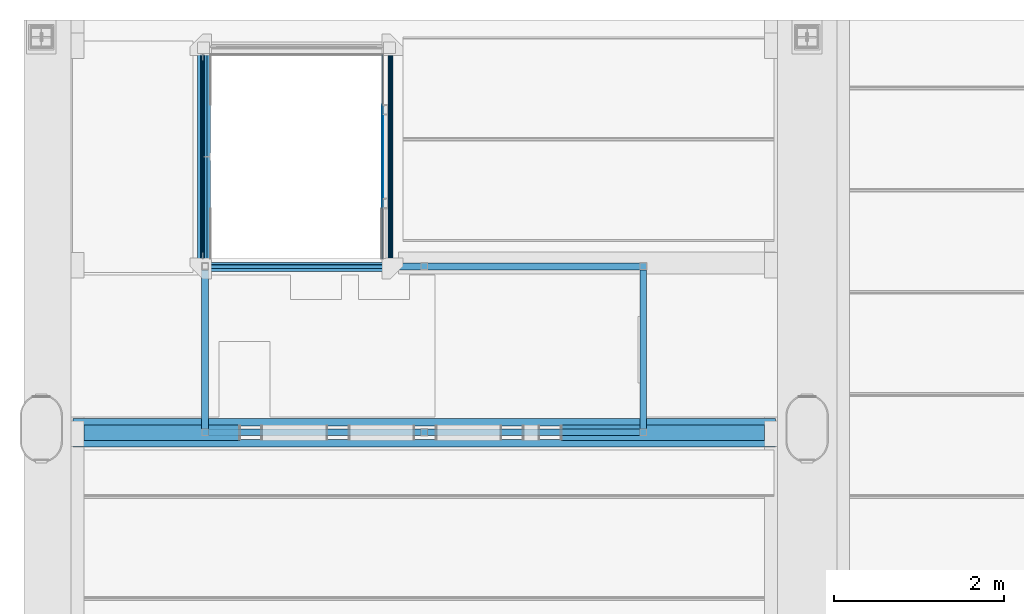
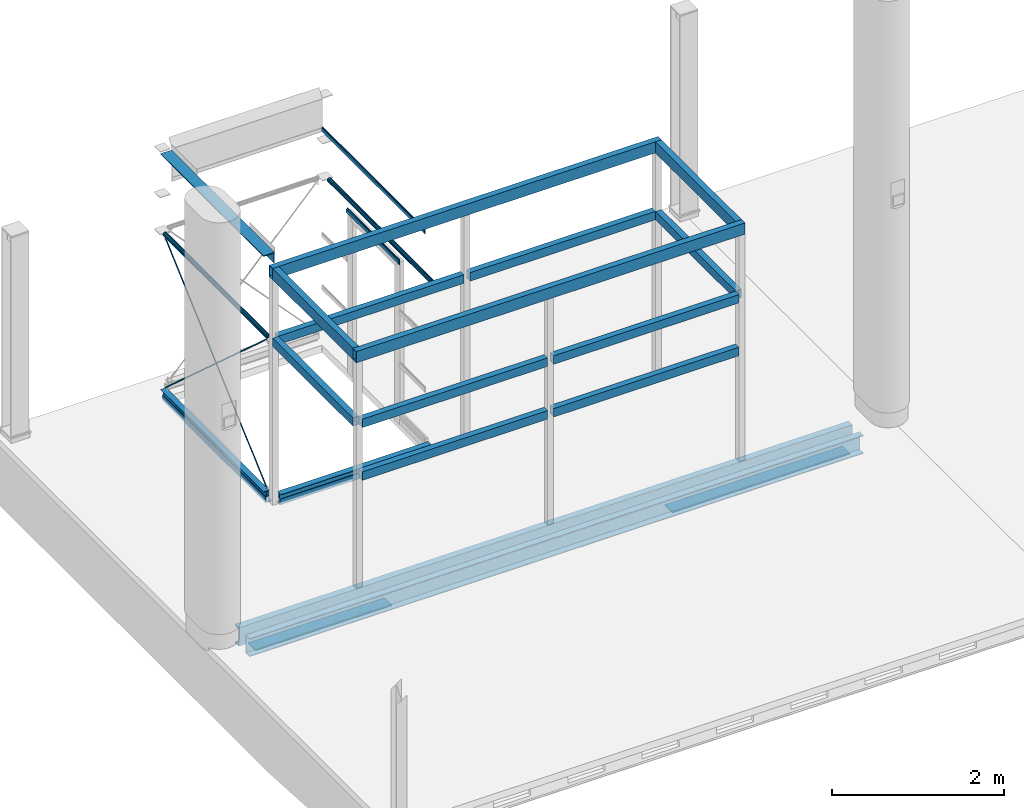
# One storey, part 7 of 15: 31 beams.
"""IFC2X3 building model written with IfcOpenShell, lengths in millimetres."""

from ifc_helpers import new_model, entity, si_unit, converted_unit, derived_unit, direction, frame, origin_with_axes, place, context, subcontext, project, spatial, faceted_brep, material, type_object, element, save


model = new_model("IFC2X3")

# Units and contexts
model_context = context("Model", 3, precision=0.01, world=frame((0.0, 4.29681676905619e-09, 0.0)), true_north=direction((4.01073788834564e-13, 1.0)))
plan_context = context("Plan", 3, precision=0.01, world=frame((0.0, 4.29681676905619e-09, 0.0)), true_north=direction((4.01073788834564e-13, 1.0)))
body_context = subcontext(model_context, "Body", "Model", "MODEL_VIEW")
ifc_project = project(units=[converted_unit("PLANEANGLEUNIT", "DEGREE", entity("IfcPositiveLengthMeasure", 0.0174532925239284), si_unit("PLANEANGLEUNIT", "RADIAN"), dimensions=[0, 0, 0, 0, 0, 0, 0]), si_unit("AREAUNIT", "SQUARE_METRE"), si_unit("LENGTHUNIT", "METRE", prefix="MILLI"), si_unit("MASSUNIT", "GRAM", prefix="KILO"), si_unit("POWERUNIT", "WATT"), si_unit("PRESSUREUNIT", "PASCAL", prefix="KILO"), si_unit("FORCEUNIT", "NEWTON", prefix="KILO"), si_unit("ELECTRICVOLTAGEUNIT", "VOLT"), si_unit("ELECTRICCURRENTUNIT", "AMPERE"), si_unit("THERMODYNAMICTEMPERATUREUNIT", "DEGREE_CELSIUS"), si_unit("TIMEUNIT", "SECOND"), si_unit("VOLUMEUNIT", "CUBIC_METRE"), derived_unit("LINEARVELOCITYUNIT", [(si_unit("LENGTHUNIT", "METRE"), 1), (si_unit("TIMEUNIT", "SECOND"), -1)]), derived_unit("VOLUMETRICFLOWRATEUNIT", [(si_unit("VOLUMEUNIT", "CUBIC_METRE"), 1), (si_unit("TIMEUNIT", "SECOND"), -1)]), derived_unit("THERMALTRANSMITTANCEUNIT", [(si_unit("POWERUNIT", "WATT"), 1), (si_unit("THERMODYNAMICTEMPERATUREUNIT", "KELVIN"), -1), (si_unit("AREAUNIT", "SQUARE_METRE"), -1)]), derived_unit("SOUNDPRESSUREUNIT", [(si_unit("PRESSUREUNIT", "PASCAL"), 1)])], contexts=[model_context, plan_context])

# Site, building, storey
site_placement = place(None, frame((0.0, -4.29681676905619e-09, 0.0), z_axis=(0.0, 0.0, 1.0), x_axis=(1.0, 0.0, 0.0)))
site = spatial("IfcSite", under=ifc_project, at=site_placement, Name="Gardermoen", CompositionType="ELEMENT")
building_placement = place(site_placement, frame((0.0, 4.29681676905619e-09, 0.0), z_axis=(0.0, 0.0, 1.0), x_axis=(1.0, 0.0, 0.0)))
building = spatial("IfcBuilding", under=site, at=building_placement, Name="TG", CompositionType="ELEMENT")
storey_placement = place(building_placement, origin_with_axes())
storey = spatial("IfcBuildingStorey", under=building, at=storey_placement, Name="F", CompositionType="ELEMENT", Elevation=0.0)

# Beams
ifc_material = material(Name="STEEL/S355")
beam_type_1 = type_object("IfcBeamType", Name="RØR60.3X5.0", PredefinedType="NOTDEFINED")
beam_1_placement = place(storey_placement, frame((326105.039287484, 464694.917046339, 212455.000718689), z_axis=(0.0, 0.0, 1.0), x_axis=(6.88099999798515e-05, 0.999999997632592, 0.0)))
element("IfcBeam", 1, at=beam_1_placement, inside=storey, type_object=beam_type_1, material=ifc_material, Name="STÅLBJELKE", ObjectType="RØR60.3X5.0", context=body_context, shape_type="Brep", body=[
    faceted_brep([(4.07453626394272e-10, -25.1499999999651, 0.0), (5.82076609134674e-10, -23.2355702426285, 9.62448832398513), (2399.9124806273, -23.2355702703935, 9.62448832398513), (2399.91248062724, -25.1500000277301, 0.0), (6.40284270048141e-10, -17.7837355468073, 17.7837355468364), (2399.91248062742, -17.783735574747, 17.7837355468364), (6.40284270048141e-10, -9.62448832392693, 23.2355702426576), (2399.91248062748, -9.62448835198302, 23.2355702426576), (5.23868948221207e-10, 5.82076609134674e-11, 25.1499999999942), (2399.91248062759, -2.81725078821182e-08, 25.1499999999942), (3.49245965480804e-10, 9.62448832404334, 23.2355702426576), (2399.91248062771, 9.624488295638, 23.2355702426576), (5.82076609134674e-11, 17.7837355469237, 17.7837355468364), (2399.91248062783, 17.7837355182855, 17.7837355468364), (-1.74622982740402e-10, 23.2355702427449, 9.62448832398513), (2399.91248062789, 23.2355702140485, 9.62448832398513), (-3.49245965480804e-10, 25.1500000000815, 0.0), (2399.91248062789, 25.1499999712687, 0.0), (-5.82076609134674e-10, 23.2355702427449, -9.62448832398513), (2399.91248062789, 23.2355702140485, -9.62448832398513), (-6.40284270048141e-10, 17.7837355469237, -17.7837355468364), (2399.91248062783, 17.7837355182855, -17.7837355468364), (-6.40284270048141e-10, 9.62448832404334, -23.2355702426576), (2399.91248062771, 9.624488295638, -23.2355702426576), (-5.23868948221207e-10, 5.82076609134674e-11, -25.1499999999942), (2399.91248062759, -2.81725078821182e-08, -25.1499999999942), (-3.49245965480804e-10, -9.62448832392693, -23.2355702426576), (2399.91248062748, -9.62448835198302, -23.2355702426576), (-5.82076609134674e-11, -17.7837355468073, -17.7837355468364), (2399.91248062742, -17.783735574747, -17.7837355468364), (1.74622982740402e-10, -23.2355702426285, -9.62448832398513), (2399.9124806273, -23.2355702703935, -9.62448832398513), (4.65661287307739e-10, -30.1499999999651, 0.0), (1.74622982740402e-10, -27.8549679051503, -11.5379054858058), (2399.9124806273, -27.8549679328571, -11.5379054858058), (2399.91248062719, -30.1500000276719, 0.0), (-1.16415321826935e-10, -21.3192694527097, -21.3192694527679), (2399.91248062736, -21.3192694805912, -21.3192694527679), (-4.07453626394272e-10, -11.5379054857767, -27.8549679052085), (2399.91248062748, -11.5379055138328, -27.8549679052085), (-6.40284270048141e-10, 5.82076609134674e-11, -30.1499999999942), (2399.91248062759, -2.81725078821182e-08, -30.1499999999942), (-7.56699591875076e-10, 11.5379054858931, -27.8549679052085), (2399.91248062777, 11.5379054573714, -27.8549679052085), (-8.14907252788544e-10, 21.3192694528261, -21.3192694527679), (2399.91248062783, 21.319269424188, -21.3192694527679), (-7.56699591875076e-10, 27.8549679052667, -11.5379054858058), (2399.91248062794, 27.8549678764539, -11.5379054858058), (-4.65661287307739e-10, 30.1500000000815, 0.0), (2399.91248062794, 30.1499999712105, 0.0), (-2.3283064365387e-10, 27.8549679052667, 11.5379054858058), (2399.91248062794, 27.8549678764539, 11.5379054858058), (5.82076609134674e-11, 21.3192694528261, 21.3192694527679), (2399.91248062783, 21.319269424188, 21.3192694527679), (4.07453626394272e-10, 11.5379054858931, 27.8549679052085), (2399.91248062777, 11.5379054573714, 27.8549679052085), (6.40284270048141e-10, 5.82076609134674e-11, 30.1499999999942), (2399.91248062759, -2.81725078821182e-08, 30.1499999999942), (7.56699591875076e-10, -11.5379054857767, 27.8549679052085), (2399.91248062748, -11.5379055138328, 27.8549679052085), (7.56699591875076e-10, -21.3192694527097, 21.3192694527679), (2399.91248062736, -21.3192694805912, 21.3192694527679), (6.98491930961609e-10, -27.8549679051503, 11.5379054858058), (2399.9124806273, -27.8549679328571, 11.5379054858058)], [[[0, 1, 2, 3]], [[1, 4, 5, 2]], [[4, 6, 7, 5]], [[6, 8, 9, 7]], [[8, 10, 11, 9]], [[10, 12, 13, 11]], [[12, 14, 15, 13]], [[14, 16, 17, 15]], [[16, 18, 19, 17]], [[18, 20, 21, 19]], [[20, 22, 23, 21]], [[22, 24, 25, 23]], [[24, 26, 27, 25]], [[26, 28, 29, 27]], [[28, 30, 31, 29]], [[30, 0, 3, 31]], [[32, 33, 34, 35]], [[33, 36, 37, 34]], [[36, 38, 39, 37]], [[38, 40, 41, 39]], [[40, 42, 43, 41]], [[42, 44, 45, 43]], [[44, 46, 47, 45]], [[46, 48, 49, 47]], [[48, 50, 51, 49]], [[50, 52, 53, 51]], [[52, 54, 55, 53]], [[54, 56, 57, 55]], [[56, 58, 59, 57]], [[58, 60, 61, 59]], [[60, 62, 63, 61]], [[62, 32, 35, 63]], [[37, 39, 41, 43, 45, 47, 49, 51, 53, 55, 57, 59, 61, 63, 35, 34], [5, 7, 9, 11, 13, 15, 17, 19, 21, 23, 25, 27, 29, 31, 3, 2]], [[62, 60, 58, 56, 54, 52, 50, 48, 46, 44, 42, 40, 38, 36, 33, 32], [30, 28, 26, 24, 22, 20, 18, 16, 14, 12, 10, 8, 6, 4, 1, 0]]]),
])
beam_2_placement = place(storey_placement, frame((323894.840244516, 464694.917046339, 212455.000241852), z_axis=(0.0, 0.0, 1.0), x_axis=(-6.88099999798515e-05, 0.999999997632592, 0.0)))
element("IfcBeam", 2, at=beam_2_placement, inside=storey, type_object=beam_type_1, material=ifc_material, Name="STÅLBJELKE", ObjectType="RØR60.3X5.0", context=body_context, shape_type="Brep", body=[
    faceted_brep([(4.07453626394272e-10, -25.1499999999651, 0.0), (5.82076609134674e-10, -23.2355702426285, 9.62448832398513), (2399.9124806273, -23.2355702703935, 9.62448832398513), (2399.91248062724, -25.1500000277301, 0.0), (6.40284270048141e-10, -17.7837355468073, 17.7837355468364), (2399.91248062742, -17.783735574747, 17.7837355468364), (6.40284270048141e-10, -9.62448832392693, 23.2355702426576), (2399.91248062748, -9.62448835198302, 23.2355702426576), (5.23868948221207e-10, 5.82076609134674e-11, 25.1499999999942), (2399.91248062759, -2.81725078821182e-08, 25.1499999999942), (3.49245965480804e-10, 9.62448832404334, 23.2355702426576), (2399.91248062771, 9.624488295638, 23.2355702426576), (5.82076609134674e-11, 17.7837355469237, 17.7837355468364), (2399.91248062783, 17.7837355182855, 17.7837355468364), (-1.74622982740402e-10, 23.2355702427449, 9.62448832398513), (2399.91248062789, 23.2355702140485, 9.62448832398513), (-3.49245965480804e-10, 25.1500000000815, 0.0), (2399.91248062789, 25.1499999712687, 0.0), (-5.82076609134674e-10, 23.2355702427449, -9.62448832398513), (2399.91248062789, 23.2355702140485, -9.62448832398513), (-6.40284270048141e-10, 17.7837355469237, -17.7837355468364), (2399.91248062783, 17.7837355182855, -17.7837355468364), (-6.40284270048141e-10, 9.62448832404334, -23.2355702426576), (2399.91248062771, 9.624488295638, -23.2355702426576), (-5.23868948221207e-10, 5.82076609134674e-11, -25.1499999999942), (2399.91248062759, -2.81725078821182e-08, -25.1499999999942), (-3.49245965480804e-10, -9.62448832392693, -23.2355702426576), (2399.91248062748, -9.62448835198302, -23.2355702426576), (-5.82076609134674e-11, -17.7837355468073, -17.7837355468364), (2399.91248062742, -17.783735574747, -17.7837355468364), (1.74622982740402e-10, -23.2355702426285, -9.62448832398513), (2399.9124806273, -23.2355702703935, -9.62448832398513), (4.65661287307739e-10, -30.1499999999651, 0.0), (1.74622982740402e-10, -27.8549679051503, -11.5379054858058), (2399.9124806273, -27.8549679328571, -11.5379054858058), (2399.91248062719, -30.1500000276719, 0.0), (-1.16415321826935e-10, -21.3192694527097, -21.3192694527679), (2399.91248062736, -21.3192694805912, -21.3192694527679), (-4.07453626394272e-10, -11.5379054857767, -27.8549679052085), (2399.91248062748, -11.5379055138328, -27.8549679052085), (-6.40284270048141e-10, 5.82076609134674e-11, -30.1499999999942), (2399.91248062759, -2.81725078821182e-08, -30.1499999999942), (-7.56699591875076e-10, 11.5379054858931, -27.8549679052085), (2399.91248062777, 11.5379054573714, -27.8549679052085), (-8.14907252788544e-10, 21.3192694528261, -21.3192694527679), (2399.91248062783, 21.319269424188, -21.3192694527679), (-7.56699591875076e-10, 27.8549679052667, -11.5379054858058), (2399.91248062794, 27.8549678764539, -11.5379054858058), (-4.65661287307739e-10, 30.1500000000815, 0.0), (2399.91248062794, 30.1499999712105, 0.0), (-2.3283064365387e-10, 27.8549679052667, 11.5379054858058), (2399.91248062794, 27.8549678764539, 11.5379054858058), (5.82076609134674e-11, 21.3192694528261, 21.3192694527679), (2399.91248062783, 21.319269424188, 21.3192694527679), (4.07453626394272e-10, 11.5379054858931, 27.8549679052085), (2399.91248062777, 11.5379054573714, 27.8549679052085), (6.40284270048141e-10, 5.82076609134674e-11, 30.1499999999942), (2399.91248062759, -2.81725078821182e-08, 30.1499999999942), (7.56699591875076e-10, -11.5379054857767, 27.8549679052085), (2399.91248062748, -11.5379055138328, 27.8549679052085), (7.56699591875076e-10, -21.3192694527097, 21.3192694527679), (2399.91248062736, -21.3192694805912, 21.3192694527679), (6.98491930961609e-10, -27.8549679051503, 11.5379054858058), (2399.9124806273, -27.8549679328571, 11.5379054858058)], [[[0, 1, 2, 3]], [[1, 4, 5, 2]], [[4, 6, 7, 5]], [[6, 8, 9, 7]], [[8, 10, 11, 9]], [[10, 12, 13, 11]], [[12, 14, 15, 13]], [[14, 16, 17, 15]], [[16, 18, 19, 17]], [[18, 20, 21, 19]], [[20, 22, 23, 21]], [[22, 24, 25, 23]], [[24, 26, 27, 25]], [[26, 28, 29, 27]], [[28, 30, 31, 29]], [[30, 0, 3, 31]], [[32, 33, 34, 35]], [[33, 36, 37, 34]], [[36, 38, 39, 37]], [[38, 40, 41, 39]], [[40, 42, 43, 41]], [[42, 44, 45, 43]], [[44, 46, 47, 45]], [[46, 48, 49, 47]], [[48, 50, 51, 49]], [[50, 52, 53, 51]], [[52, 54, 55, 53]], [[54, 56, 57, 55]], [[56, 58, 59, 57]], [[58, 60, 61, 59]], [[60, 62, 63, 61]], [[62, 32, 35, 63]], [[37, 39, 41, 43, 45, 47, 49, 51, 53, 55, 57, 59, 61, 63, 35, 34], [5, 7, 9, 11, 13, 15, 17, 19, 21, 23, 25, 27, 29, 31, 3, 2]], [[62, 60, 58, 56, 54, 52, 50, 48, 46, 44, 42, 40, 38, 36, 33, 32], [30, 28, 26, 24, 22, 20, 18, 16, 14, 12, 10, 8, 6, 4, 1, 0]]]),
])
beam_type_2 = type_object("IfcBeamType", Name="RHS80*40*4", PredefinedType="NOTDEFINED")
beam_3_placement = place(storey_placement, frame((323893.005239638, 464694.917046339, 210215.000257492), z_axis=(0.0, 0.0, 1.0), x_axis=(-6.88099999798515e-05, 0.999999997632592, 0.0)))
element("IfcBeam", 3, at=beam_3_placement, inside=storey, type_object=beam_type_2, material=ifc_material, Name="STÅLBJELKE", ObjectType="RHS80*40*4", context=body_context, shape_type="Brep", body=[
    faceted_brep([(0.0, 16.0, -36.0), (0.0, -16.0, -36.0), (2399.91248082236, -15.9999999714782, -36.0), (2399.91248082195, 16.0000000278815, -36.0), (0.0, -16.0, 36.0), (2399.91248082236, -15.9999999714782, 36.0), (0.0, 16.0, 36.0), (2399.91248082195, 16.0000000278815, 36.0), (0.0, 20.0, -40.0), (0.0, 20.0, 40.0), (2399.91248082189, 20.0000000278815, 40.0), (2399.91248082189, 20.0000000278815, -40.0), (0.0, -20.0, 40.0), (2399.91248082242, -19.99999997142, 40.0), (0.0, -20.0, -40.0), (2399.91248082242, -19.99999997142, -40.0)], [[[0, 1, 2, 3]], [[1, 4, 5, 2]], [[4, 6, 7, 5]], [[6, 0, 3, 7]], [[8, 9, 10, 11]], [[9, 12, 13, 10]], [[12, 14, 15, 13]], [[14, 8, 11, 15]], [[13, 15, 11, 10], [5, 7, 3, 2]], [[14, 12, 9, 8], [6, 4, 1, 0]]]),
])
beam_4_placement = place(storey_placement, frame((323987.857743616, 464599.995473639, 210215.000257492), z_axis=(0.0, 0.0, 1.0), x_axis=(0.999999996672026, -8.15839999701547e-05, 0.0)))
element("IfcBeam", 4, at=beam_4_placement, inside=storey, type_object=beam_type_2, material=ifc_material, Name="STÅLBJELKE", ObjectType="RHS80*40*4", context=body_context, shape_type="Brep", body=[
    faceted_brep([(0.0, 16.0, -36.0), (0.0, -16.0, -36.0), (2024.15939510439, -16.0, -36.0), (2024.15939510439, 16.0, -36.0), (0.0, -16.0, 36.0), (2024.15939510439, -16.0, 36.0), (0.0, 16.0, 36.0), (2024.15939510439, 16.0, 36.0), (0.0, 20.0, -40.0), (0.0, 20.0, 40.0), (2024.15939510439, 20.0, 40.0), (2024.15939510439, 20.0, -40.0), (0.0, -20.0, 40.0), (2024.15939510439, -20.0, 40.0), (0.0, -20.0, -40.0), (2024.15939510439, -20.0, -40.0)], [[[0, 1, 2, 3]], [[1, 4, 5, 2]], [[4, 6, 7, 5]], [[6, 0, 3, 7]], [[8, 9, 10, 11]], [[9, 12, 13, 10]], [[12, 14, 15, 13]], [[14, 8, 11, 15]], [[13, 15, 11, 10], [5, 7, 3, 2]], [[14, 12, 9, 8], [6, 4, 1, 0]]]),
])
beam_type_3 = type_object("IfcBeamType", Name="L80*8", PredefinedType="NOTDEFINED")
beam_5_placement = place(storey_placement, frame((323905.505427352, 464694.917046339, 210135.000095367), z_axis=(0.0, 0.0, 1.0), x_axis=(-6.88099999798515e-05, 0.999999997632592, 0.0)))
element("IfcBeam", 5, at=beam_5_placement, inside=storey, type_object=beam_type_3, material=ifc_material, Name="STÅLBJELKE", ObjectType="L80*8", context=body_context, shape_type="Brep", body=[
    faceted_brep([(0.0, 40.0, -40.0), (4.98403096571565e-10, 40.0000000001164, 40.0), (2399.91248078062, 40.0000000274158, 40.0), (2399.91248078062, 40.0000000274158, -40.0), (0.0, 32.0, 40.0), (2399.91248078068, 32.0000000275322, 40.0), (0.0, 32.0, -32.0), (2399.91248078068, 32.0000000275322, -32.0), (0.0, -40.0, -32.0), (2399.91248078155, -39.9999999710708, -32.0), (0.0, -40.0, -40.0), (2399.91248078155, -39.9999999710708, -40.0)], [[[0, 1, 2, 3]], [[1, 4, 5, 2]], [[4, 6, 7, 5]], [[6, 8, 9, 7]], [[8, 10, 11, 9]], [[10, 0, 3, 11]], [[5, 7, 9, 11, 3, 2]], [[10, 8, 6, 4, 1, 0]]]),
])
beam_6_placement = place(storey_placement, frame((326012.017138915, 464612.330522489, 210135.000095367), z_axis=(0.0, 0.0, 1.0), x_axis=(-0.999999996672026, 8.1583999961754e-05, 0.0)))
element("IfcBeam", 6, at=beam_6_placement, inside=storey, type_object=beam_type_3, material=ifc_material, Name="STÅLBJELKE", ObjectType="L80*8", context=body_context, shape_type="Brep", body=[
    faceted_brep([(0.0, 40.0, -40.0), (4.98403096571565e-10, 40.0000000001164, 40.0), (2024.15940205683, 39.9999999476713, 40.0), (2024.15940205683, 39.9999999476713, -40.0), (0.0, 32.0, 40.0), (2024.1594020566, 31.9999999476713, 40.0), (0.0, 32.0, -32.0), (2024.1594020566, 31.9999999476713, -32.0), (0.0, -40.0, -32.0), (2024.15940205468, -40.0000000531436, -32.0), (0.0, -40.0, -40.0), (2024.15940205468, -40.0000000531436, -40.0)], [[[0, 1, 2, 3]], [[1, 4, 5, 2]], [[4, 6, 7, 5]], [[6, 8, 9, 7]], [[8, 10, 11, 9]], [[10, 0, 3, 11]], [[5, 7, 9, 11, 3, 2]], [[10, 8, 6, 4, 1, 0]]]),
])
beam_type_4 = type_object("IfcBeamType", Name="D12", PredefinedType="NOTDEFINED")
for number, where, z_axis, x_axis in (
    (7, (323894.841298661, 467074.619419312, 210281.628205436), (4.73909999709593e-05, 0.66861255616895, 0.743610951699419), (-5.27069999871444e-05, -0.743610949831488, 0.668612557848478)),
    (8, (323894.841298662, 464715.044675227, 210281.628205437), (4.73909999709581e-05, -0.668612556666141, 0.743610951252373), (-5.27070000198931e-05, 0.743610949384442, 0.668612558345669)),
):
    element("IfcBeam", number, at=place(storey_placement, frame(where, z_axis=z_axis, x_axis=x_axis)), inside=storey, type_object=beam_type_4, material=ifc_material, Name="STÅLBJELKE", ObjectType="D12", context=body_context, shape_type="Brep", body=[
        faceted_brep([(0.0, -6.0, 0.0), (5.82076609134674e-11, -4.24264068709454, -4.24264068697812), (3173.13071494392, -4.24264061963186, -4.24264071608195), (3173.13071494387, -5.99999993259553, -2.89292074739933e-08), (8.73114913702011e-11, 0.0, -5.99999999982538), (3173.13071494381, 6.74626789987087e-08, -6.00000002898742), (5.82076609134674e-11, 4.24264068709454, -4.24264068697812), (3173.13071494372, 4.24264075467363, -4.24264071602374), (0.0, 6.0, 0.0), (3173.13071494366, 6.00000006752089, -2.88709998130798e-08), (-5.82076609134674e-11, 4.24264068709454, 4.24264068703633), (3173.13071494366, 4.24264075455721, 4.24264065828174), (-5.82076609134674e-11, 0.0, 5.99999999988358), (3173.13071494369, 6.74044713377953e-08, 5.99999997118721), (-5.82076609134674e-11, -4.24264068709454, 4.24264068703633), (3173.13071494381, -4.24264061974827, 4.24264065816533)], [[[0, 1, 2, 3]], [[1, 4, 5, 2]], [[4, 6, 7, 5]], [[6, 8, 9, 7]], [[8, 10, 11, 9]], [[10, 12, 13, 11]], [[12, 14, 15, 13]], [[14, 0, 3, 15]], [[5, 7, 9, 11, 13, 15, 3, 2]], [[14, 12, 10, 8, 6, 4, 1, 0]]]),
    ])
beam_type_5 = type_object("IfcBeamType", Name="50*12", PredefinedType="NOTDEFINED")
beam_7_placement = place(storey_placement, frame((326006.039287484, 464694.830478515, 213204.823050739), z_axis=(0.0, 0.0, 1.0), x_axis=(0.0, 1.0, 0.0)))
element("IfcBeam", 9, at=beam_7_placement, inside=storey, type_object=beam_type_5, material=ifc_material, Name="STÅLBJELKE", ObjectType="50*12", context=body_context, shape_type="Brep", body=[
    faceted_brep([(0.0, 6.0, -25.0), (0.0, 6.0, 25.0), (2399.99904296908, 6.0, 25.0), (2399.99904296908, 6.0, -25.0), (0.0, -6.0, 25.0), (2399.99904296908, -6.0, 25.0), (0.0, -6.0, -25.0), (2399.99904296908, -6.0, -25.0)], [[[0, 1, 2, 3]], [[1, 4, 5, 2]], [[4, 6, 7, 5]], [[6, 0, 3, 7]], [[5, 7, 3, 2]], [[6, 4, 1, 0]]]),
])
beam_8_placement = place(storey_placement, frame((326001.039287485, 465284.64471299, 212410.001277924), z_axis=(0.0, 0.0, 1.0), x_axis=(0.0, 1.0, 0.0)))
element("IfcBeam", 10, at=beam_8_placement, inside=storey, type_object=beam_type_5, material=ifc_material, Name="STÅLBJELKE", ObjectType="50*12", context=body_context, shape_type="Brep", body=[
    faceted_brep([(0.0, 6.0, -25.0), (0.0, 6.0, 25.0), (1220.00026702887, 5.99999998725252, 25.0), (1220.00026702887, 5.99999998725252, -25.0), (0.0, -6.0, 25.0), (1220.00026702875, -6.00000001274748, 25.0), (0.0, -6.0, -25.0), (1220.00026702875, -6.00000001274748, -25.0)], [[[0, 1, 2, 3]], [[1, 4, 5, 2]], [[4, 6, 7, 5]], [[6, 0, 3, 7]], [[5, 7, 3, 2]], [[6, 4, 1, 0]]]),
])
beam_type_6 = type_object("IfcBeamType", Name="80*5", PredefinedType="NOTDEFINED")
beam_9_placement = place(storey_placement, frame((326014.539287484, 464694.830478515, 213204.822917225), z_axis=(0.0, 0.0, 1.0), x_axis=(0.0, 1.0, 0.0)))
element("IfcBeam", 11, at=beam_9_placement, inside=storey, type_object=beam_type_6, material=ifc_material, Name="STÅLBJELKE", ObjectType="80*5", context=body_context, shape_type="Brep", body=[
    faceted_brep([(0.0, 2.5, -40.0), (0.0, 2.5, 40.0), (2399.99904296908, 2.5, 40.0), (2399.99904296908, 2.5, -40.0), (0.0, -2.5, 40.0), (2399.99904296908, -2.5, 40.0), (0.0, -2.5, -40.0), (2399.99904296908, -2.5, -40.0)], [[[0, 1, 2, 3]], [[1, 4, 5, 2]], [[4, 6, 7, 5]], [[6, 0, 3, 7]], [[5, 7, 3, 2]], [[6, 4, 1, 0]]]),
])
beam_10_placement = place(storey_placement, frame((326009.539287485, 465284.64471299, 212410.001144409), z_axis=(0.0, 0.0, 1.0), x_axis=(0.0, 1.0, 0.0)))
element("IfcBeam", 12, at=beam_10_placement, inside=storey, type_object=beam_type_6, material=ifc_material, Name="STÅLBJELKE", ObjectType="80*5", context=body_context, shape_type="Brep", body=[
    faceted_brep([(0.0, 2.5, -40.0), (0.0, 2.5, 40.0), (1220.00026702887, 2.49999998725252, 40.0), (1220.00026702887, 2.49999998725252, -40.0), (0.0, -2.5, 40.0), (1220.00026702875, -2.50000001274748, 40.0), (0.0, -2.5, -40.0), (1220.00026702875, -2.50000001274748, -40.0)], [[[0, 1, 2, 3]], [[1, 4, 5, 2]], [[4, 6, 7, 5]], [[6, 0, 3, 7]], [[5, 7, 3, 2]], [[6, 4, 1, 0]]]),
])
beam_type_7 = type_object("IfcBeamType", Name="L150*12", PredefinedType="NOTDEFINED")
beam_11_placement = place(storey_placement, frame((323912.862393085, 467094.829521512, 213542.000007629), z_axis=(-1.0, 0.0, 0.0), x_axis=(0.0, -1.0, 0.0)))
element("IfcBeam", 13, at=beam_11_placement, inside=storey, type_object=beam_type_7, material=ifc_material, Name="STÅLBJELKE", ObjectType="L150*12", context=body_context, shape_type="Brep", body=[
    faceted_brep([(0.0, 75.0, -75.0), (0.0, 75.0, 75.0), (2399.84058683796, 75.0, 75.0), (2399.84058683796, 75.0, -75.0), (0.0, 63.0, 75.0), (2399.84058683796, 63.0, 75.0), (0.0, 63.0, -63.0), (2399.84058683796, 63.0, -63.0), (0.0, -75.0, -63.0), (2399.84058683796, -75.0, -63.0), (0.0, -75.0, -75.0), (2399.84058683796, -75.0, -75.0)], [[[0, 1, 2, 3]], [[1, 4, 5, 2]], [[4, 6, 7, 5]], [[6, 8, 9, 7]], [[8, 10, 11, 9]], [[10, 0, 3, 11]], [[5, 7, 9, 11, 3, 2]], [[10, 8, 6, 4, 1, 0]]]),
])
beam_type_8 = type_object("IfcBeamType", Name="5*80", PredefinedType="NOTDEFINED")
beam_12_placement = place(storey_placement, frame((323878.005383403, 464694.917046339, 210257.500133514), z_axis=(0.0, 0.0, 1.0), x_axis=(-6.88099999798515e-05, 0.999999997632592, 0.0)))
element("IfcBeam", 14, at=beam_12_placement, inside=storey, type_object=beam_type_8, material=ifc_material, Name="STÅLBJELKE", ObjectType="5*80", context=body_context, shape_type="Brep", body=[
    faceted_brep([(-4.65661287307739e-10, 39.9999999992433, -2.5), (-4.65661287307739e-10, 39.9999999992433, 2.5), (2399.91248082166, 40.000000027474, 2.5), (2399.91248082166, 40.000000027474, -2.5), (4.07453626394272e-10, -39.9999999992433, 2.5), (2399.91248082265, -39.9999999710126, 2.5), (4.07453626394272e-10, -39.9999999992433, -2.5), (2399.91248082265, -39.9999999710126, -2.5)], [[[0, 1, 2, 3]], [[1, 4, 5, 2]], [[4, 6, 7, 5]], [[6, 0, 3, 7]], [[5, 7, 3, 2]], [[6, 4, 1, 0]]]),
])
beam_13_placement = place(storey_placement, frame((323987.857743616, 464584.995617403, 210257.500133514), z_axis=(0.0, 0.0, 1.0), x_axis=(0.999999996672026, -8.15839999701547e-05, 0.0)))
element("IfcBeam", 15, at=beam_13_placement, inside=storey, type_object=beam_type_8, material=ifc_material, Name="STÅLBJELKE", ObjectType="5*80", context=body_context, shape_type="Brep", body=[
    faceted_brep([(-4.65661287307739e-10, 39.9999999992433, -2.5), (-4.65661287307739e-10, 39.9999999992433, 2.5), (2024.15940205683, 39.9999999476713, 2.5), (2024.15940205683, 39.9999999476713, -2.5), (4.07453626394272e-10, -39.9999999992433, 2.5), (2024.15940205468, -40.0000000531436, 2.5), (4.07453626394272e-10, -39.9999999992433, -2.5), (2024.15940205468, -40.0000000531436, -2.5)], [[[0, 1, 2, 3]], [[1, 4, 5, 2]], [[4, 6, 7, 5]], [[6, 0, 3, 7]], [[5, 7, 3, 2]], [[6, 4, 1, 0]]]),
])
beam_type_9 = type_object("IfcBeamType", Name="RHS120*80*5", PredefinedType="NOTDEFINED")
for number, where, z_axis, x_axis in (
    (16, (326540.0, 462655.0, 212450.0), (0.0, 0.0, 1.0), (1.0, 0.0, 0.0)),
    (17, (326540.0, 462655.0, 211700.0), (0.0, 0.0, 1.0), (1.0, 0.0, 0.0)),
    (18, (326540.0, 464605.0, 212450.0), (0.0, 0.0, 1.0), (1.0, 0.0, 0.0)),
    (19, (323965.0, 462655.0, 212450.0), (0.0, 0.0, 1.0), (1.0, 0.0, 0.0)),
):
    element("IfcBeam", number, at=place(storey_placement, frame(where, z_axis=z_axis, x_axis=x_axis)), inside=storey, type_object=beam_type_9, material=ifc_material, Name="STÅLBJELKE", ObjectType="RHS120*80*5", context=body_context, shape_type="Brep", body=[
        faceted_brep([(0.0, 35.0, -55.0), (0.0, -35.0, -55.0), (2495.0, -35.0, -55.0), (2495.0, 35.0, -55.0), (0.0, -35.0, 55.0), (2495.0, -35.0, 55.0), (0.0, 35.0, 55.0), (2495.0, 35.0, 55.0), (0.0, 40.0, -60.0), (0.0, 40.0, 60.0), (2495.0, 40.0, 60.0), (2495.0, 40.0, -60.0), (0.0, -40.0, 60.0), (2495.0, -40.0, 60.0), (0.0, -40.0, -60.0), (2495.0, -40.0, -60.0)], [[[0, 1, 2, 3]], [[1, 4, 5, 2]], [[4, 6, 7, 5]], [[6, 0, 3, 7]], [[8, 9, 10, 11]], [[9, 12, 13, 10]], [[12, 14, 15, 13]], [[14, 8, 11, 15]], [[13, 15, 11, 10], [5, 7, 3, 2]], [[14, 12, 9, 8], [6, 4, 1, 0]]]),
    ])
for number, where, z_axis, x_axis in (
    (20, (329075.0, 464565.0, 212450.0), (0.0, 0.0, 1.0), (0.0, -1.0, 0.0)),
    (21, (323925.0, 464565.0, 212450.0), (0.0, 0.0, 1.0), (0.0, -1.0, 0.0)),
):
    element("IfcBeam", number, at=place(storey_placement, frame(where, z_axis=z_axis, x_axis=x_axis)), inside=storey, type_object=beam_type_9, material=ifc_material, Name="STÅLBJELKE", ObjectType="RHS120*80*5", context=body_context, shape_type="Brep", body=[
        faceted_brep([(0.0, 35.0, -55.0), (0.0, -35.0, -55.0), (1870.0, -35.0, -55.0), (1870.0, 35.0, -55.0), (0.0, -35.0, 55.0), (1870.0, -35.0, 55.0), (0.0, 35.0, 55.0), (1870.0, 35.0, 55.0), (0.0, 40.0, -60.0), (0.0, 40.0, 60.0), (1870.0, 40.0, 60.0), (1870.0, 40.0, -60.0), (0.0, -40.0, 60.0), (1870.0, -40.0, 60.0), (0.0, -40.0, -60.0), (1870.0, -40.0, -60.0)], [[[0, 1, 2, 3]], [[1, 4, 5, 2]], [[4, 6, 7, 5]], [[6, 0, 3, 7]], [[8, 9, 10, 11]], [[9, 12, 13, 10]], [[12, 14, 15, 13]], [[14, 8, 11, 15]], [[13, 15, 11, 10], [5, 7, 3, 2]], [[14, 12, 9, 8], [6, 4, 1, 0]]]),
    ])
for number, where, z_axis, x_axis in (
    (22, (323965.0, 464605.0, 212450.0), (0.0, 0.0, 1.0), (1.0, 0.0, 0.0)),
    (23, (323965.0, 462655.0, 211700.0), (0.0, 0.0, 1.0), (1.0, 0.0, 0.0)),
):
    element("IfcBeam", number, at=place(storey_placement, frame(where, z_axis=z_axis, x_axis=x_axis)), inside=storey, type_object=beam_type_9, material=ifc_material, Name="STÅLBJELKE", ObjectType="RHS120*80*5", context=body_context, shape_type="Brep", body=[
        faceted_brep([(0.0, 35.0, -55.0), (0.0, -35.0, -55.0), (2495.0, -35.0, -55.0), (2495.0, 35.0, -55.0), (0.0, -35.0, 55.0), (2495.0, -35.0, 55.0), (0.0, 35.0, 55.0), (2495.0, 35.0, 55.0), (0.0, 40.0, -60.0), (0.0, 40.0, 60.0), (2495.0, 40.0, 60.0), (2495.0, 40.0, -60.0), (0.0, -40.0, 60.0), (2495.0, -40.0, 60.0), (0.0, -40.0, -60.0), (2495.0, -40.0, -60.0)], [[[0, 1, 2, 3]], [[1, 4, 5, 2]], [[4, 6, 7, 5]], [[6, 0, 3, 7]], [[8, 9, 10, 11]], [[9, 12, 13, 10]], [[12, 14, 15, 13]], [[14, 8, 11, 15]], [[13, 15, 11, 10], [5, 7, 3, 2]], [[14, 12, 9, 8], [6, 4, 1, 0]]]),
    ])
beam_type_10 = type_object("IfcBeamType", Name="RHS160*80*6.3", PredefinedType="NOTDEFINED")
beam_14_placement = place(storey_placement, frame((323885.0, 462655.0, 213420.0), z_axis=(0.0, 0.0, 1.0), x_axis=(1.0, 0.0, 0.0)))
element("IfcBeam", 24, at=beam_14_placement, inside=storey, type_object=beam_type_10, material=ifc_material, Name="STÅLBJELKE", ObjectType="RHS160*80*6.3", context=body_context, shape_type="Brep", body=[
    faceted_brep([(0.0, 33.6999998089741, -73.6999998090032), (0.0, -33.6999998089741, -73.6999998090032), (5230.0, -33.6999998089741, -73.6999998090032), (5230.0, 33.6999998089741, -73.6999998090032), (0.0, -33.6999998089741, 73.6999998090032), (5230.0, -33.6999998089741, 73.6999998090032), (0.0, 33.6999998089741, 73.6999998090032), (5230.0, 33.6999998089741, 73.6999998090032), (0.0, 40.0, -80.0), (0.0, 40.0, 80.0), (5230.0, 40.0, 80.0), (5230.0, 40.0, -80.0), (0.0, -40.0, 80.0), (5230.0, -40.0, 80.0), (0.0, -40.0, -80.0), (5230.0, -40.0, -80.0)], [[[0, 1, 2, 3]], [[1, 4, 5, 2]], [[4, 6, 7, 5]], [[6, 0, 3, 7]], [[8, 9, 10, 11]], [[9, 12, 13, 10]], [[12, 14, 15, 13]], [[14, 8, 11, 15]], [[13, 15, 11, 10], [5, 7, 3, 2]], [[14, 12, 9, 8], [6, 4, 1, 0]]]),
])
for number, where, z_axis, x_axis in (
    (25, (329075.0, 464565.0, 213420.0), (0.0, 0.0, 1.0), (0.0, -1.0, 0.0)),
    (26, (323925.0, 464565.0, 213420.0), (0.0, 0.0, 1.0), (0.0, -1.0, 0.0)),
):
    element("IfcBeam", number, at=place(storey_placement, frame(where, z_axis=z_axis, x_axis=x_axis)), inside=storey, type_object=beam_type_10, material=ifc_material, Name="STÅLBJELKE", ObjectType="RHS160*80*6.3", context=body_context, shape_type="Brep", body=[
        faceted_brep([(0.0, 33.6999998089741, -73.6999998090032), (0.0, -33.6999998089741, -73.6999998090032), (1870.0, -33.6999998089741, -73.6999998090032), (1870.0, 33.6999998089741, -73.6999998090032), (0.0, -33.6999998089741, 73.6999998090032), (1870.0, -33.6999998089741, 73.6999998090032), (0.0, 33.6999998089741, 73.6999998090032), (1870.0, 33.6999998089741, 73.6999998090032), (0.0, 40.0, -80.0), (0.0, 40.0, 80.0), (1870.0, 40.0, 80.0), (1870.0, 40.0, -80.0), (0.0, -40.0, 80.0), (1870.0, -40.0, 80.0), (0.0, -40.0, -80.0), (1870.0, -40.0, -80.0)], [[[0, 1, 2, 3]], [[1, 4, 5, 2]], [[4, 6, 7, 5]], [[6, 0, 3, 7]], [[8, 9, 10, 11]], [[9, 12, 13, 10]], [[12, 14, 15, 13]], [[14, 8, 11, 15]], [[13, 15, 11, 10], [5, 7, 3, 2]], [[14, 12, 9, 8], [6, 4, 1, 0]]]),
    ])
beam_15_placement = place(storey_placement, frame((323885.0, 464605.0, 213420.0), z_axis=(0.0, 0.0, 1.0), x_axis=(1.0, 0.0, 0.0)))
element("IfcBeam", 27, at=beam_15_placement, inside=storey, type_object=beam_type_10, material=ifc_material, Name="STÅLBJELKE", ObjectType="RHS160*80*6.3", context=body_context, shape_type="Brep", body=[
    faceted_brep([(0.0, 33.6999998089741, -73.6999998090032), (0.0, -33.6999998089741, -73.6999998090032), (5230.0, -33.6999998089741, -73.6999998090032), (5230.0, 33.6999998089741, -73.6999998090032), (0.0, -33.6999998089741, 73.6999998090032), (5230.0, -33.6999998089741, 73.6999998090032), (0.0, 33.6999998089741, 73.6999998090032), (5230.0, 33.6999998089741, 73.6999998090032), (0.0, 40.0, -80.0), (0.0, 40.0, 80.0), (5230.0, 40.0, 80.0), (5230.0, 40.0, -80.0), (0.0, -40.0, 80.0), (5230.0, -40.0, 80.0), (0.0, -40.0, -80.0), (5230.0, -40.0, -80.0)], [[[0, 1, 2, 3]], [[1, 4, 5, 2]], [[4, 6, 7, 5]], [[6, 0, 3, 7]], [[8, 9, 10, 11]], [[9, 12, 13, 10]], [[12, 14, 15, 13]], [[14, 8, 11, 15]], [[13, 15, 11, 10], [5, 7, 3, 2]], [[14, 12, 9, 8], [6, 4, 1, 0]]]),
])
beam_type_11 = type_object("IfcBeamType", Name="PL10*180", PredefinedType="NOTDEFINED")
beam_16_placement = place(storey_placement, frame((322500.018717, 462739.995877, 209765.0), z_axis=(0.0, -1.0, 0.0), x_axis=(1.0, 0.0, 0.0)))
element("IfcBeam", 28, at=beam_16_placement, inside=storey, type_object=beam_type_11, material=ifc_material, Name="STÅLBJELKE", ObjectType="PL10*180", context=body_context, shape_type="Brep", body=[
    faceted_brep([(5.82076609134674e-11, -5.0, 2.91038304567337e-11), (-4.70000086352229e-05, -5.0, 179.999847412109), (-4.70000086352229e-05, 5.0, 179.999847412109), (5.82076609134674e-11, 5.0, 2.91038304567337e-11), (1835.85046386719, -5.0, 180.000076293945), (1835.85046386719, 5.0, 180.000076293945), (1835.865234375, -5.0, 0.0), (1835.865234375, 5.0, 0.0)], [[[0, 1, 2, 3]], [[1, 4, 5, 2]], [[4, 6, 7, 5]], [[6, 0, 3, 7]], [[5, 7, 3, 2]], [[6, 4, 1, 0]]]),
])
beam_17_placement = place(storey_placement, frame((328105.10982, 462739.995877, 209765.0), z_axis=(0.0, -1.0, 0.0), x_axis=(1.0, 0.0, 0.0)))
element("IfcBeam", 29, at=beam_17_placement, inside=storey, type_object=beam_type_11, material=ifc_material, Name="STÅLBJELKE", ObjectType="PL10*180", context=body_context, shape_type="Brep", body=[
    faceted_brep([(5.82076609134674e-11, -5.0, 2.91038304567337e-11), (-4.70000086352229e-05, -5.0, 179.999847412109), (-4.70000086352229e-05, 5.0, 179.999847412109), (5.82076609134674e-11, 5.0, 2.91038304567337e-11), (2394.89038085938, -5.0, 180.000076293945), (2394.89038085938, 5.0, 180.000076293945), (2394.90502929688, -5.0, 0.0), (2394.90502929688, 5.0, 0.0)], [[[0, 1, 2, 3]], [[1, 4, 5, 2]], [[4, 6, 7, 5]], [[6, 0, 3, 7]], [[5, 7, 3, 2]], [[6, 4, 1, 0]]]),
])
beam_type_12 = type_object("IfcBeamType", Name="UNP260", PredefinedType="NOTDEFINED")
for number, where, z_axis, x_axis in (
    (30, (330630.016425, 462774.995877, 209900.0), (0.0, 0.0, 1.0), (-1.0, 0.0, 0.0)),
    (31, (322370.000235, 462524.99603, 209900.0), (0.0, 0.0, 1.0), (1.0, 0.0, 0.0)),
):
    element("IfcBeam", number, at=place(storey_placement, frame(where, z_axis=z_axis, x_axis=x_axis)), inside=storey, type_object=beam_type_12, material=ifc_material, Name="STÅLBJELKE", ObjectType="UNP260", context=body_context, shape_type="Brep", body=[
        faceted_brep([(0.0, 45.0000000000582, -130.000000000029), (0.0, 45.0000000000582, 129.999999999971), (8260.016191, 45.0, 130.0), (8260.016191, 45.0, -130.0), (0.0, -44.9999999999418, 129.999999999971), (8260.016191, -45.0, 130.0), (0.0, -45.0, 119.600000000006), (8260.016191, -45.0, 119.600000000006), (0.0, 35.0, 113.200000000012), (8260.016191, 35.0, 113.200000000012), (0.0, 35.0, -113.200000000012), (8260.016191, 35.0, -113.200000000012), (0.0, -45.0, -119.600000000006), (8260.016191, -45.0, -119.600000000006), (0.0, -44.9999999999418, -130.000000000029), (8260.016191, -45.0, -130.0)], [[[0, 1, 2, 3]], [[1, 4, 5, 2]], [[4, 6, 7, 5]], [[6, 8, 9, 7]], [[8, 10, 11, 9]], [[10, 12, 13, 11]], [[12, 14, 15, 13]], [[14, 0, 3, 15]], [[5, 7, 9, 11, 13, 15, 3, 2]], [[14, 12, 10, 8, 6, 4, 1, 0]]]),
    ])

save(model, "model.ifc")
